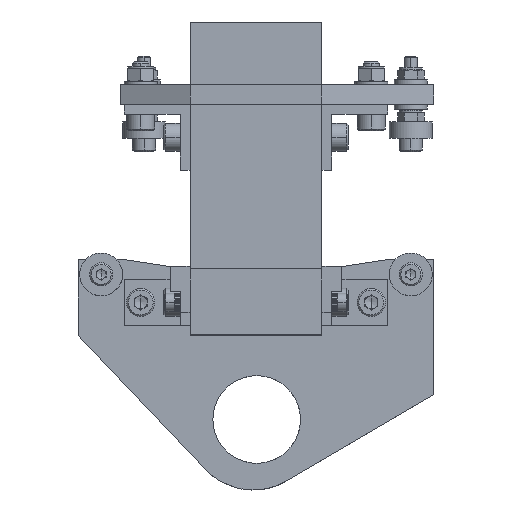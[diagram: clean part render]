
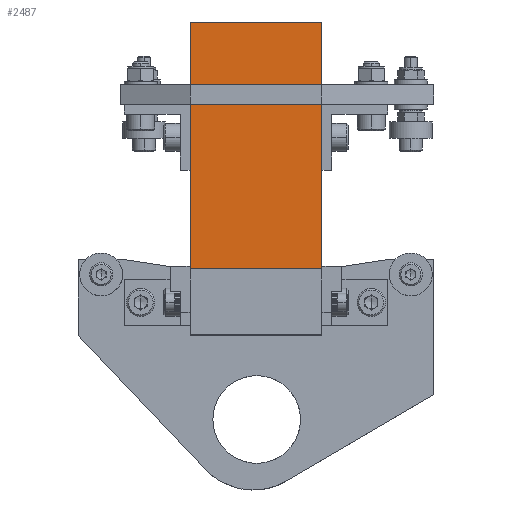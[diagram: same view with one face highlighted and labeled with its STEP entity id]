
A CAD part, top view. The second image highlights one B-rep face of the part: STEP entity #2487.
In plain terms, the highlighted planar face has unit normal (0, 0, 1).
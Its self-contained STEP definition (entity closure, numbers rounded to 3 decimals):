
#2487=ADVANCED_FACE('',(#3323),#27857,.T.);
#3323=FACE_OUTER_BOUND('',#4258,.T.);
#4258=EDGE_LOOP('',(#8030,#8031,#8032,#8033));
#8030=ORIENTED_EDGE('',*,*,#24456,.T.);
#8031=ORIENTED_EDGE('',*,*,#24457,.T.);
#8032=ORIENTED_EDGE('',*,*,#24458,.T.);
#8033=ORIENTED_EDGE('',*,*,#24454,.F.);
#11901=PCURVE('',#27856,#15775);
#11904=PCURVE('',#27857,#15778);
#11905=PCURVE('',#27857,#15779);
#11906=PCURVE('',#27857,#15780);
#11907=PCURVE('',#27857,#15781);
#11911=PCURVE('',#27858,#15785);
#11913=PCURVE('',#27859,#15787);
#11918=PCURVE('',#27860,#15792);
#15775=DEFINITIONAL_REPRESENTATION('',(#20198),#55946);
#15778=DEFINITIONAL_REPRESENTATION('',(#20203),#55946);
#15779=DEFINITIONAL_REPRESENTATION('',(#20205),#55946);
#15780=DEFINITIONAL_REPRESENTATION('',(#20207),#55946);
#15781=DEFINITIONAL_REPRESENTATION('',(#20208),#55946);
#15785=DEFINITIONAL_REPRESENTATION('',(#20214),#55946);
#15787=DEFINITIONAL_REPRESENTATION('',(#20216),#55946);
#15792=DEFINITIONAL_REPRESENTATION('',(#20221),#55946);
#20197=B_SPLINE_CURVE_WITH_KNOTS('',1,(#55232,#55233),.UNSPECIFIED.,.F.,
 .F.,(2,2),(0.,80.),.UNSPECIFIED.);
#20198=B_SPLINE_CURVE_WITH_KNOTS('',1,(#55234,#55235),.UNSPECIFIED.,.F.,
 .F.,(2,2),(0.,80.),.UNSPECIFIED.);
#20202=B_SPLINE_CURVE_WITH_KNOTS('',1,(#55242,#55243),.UNSPECIFIED.,.F.,
 .F.,(2,2),(60.,100.),.UNSPECIFIED.);
#20203=B_SPLINE_CURVE_WITH_KNOTS('',1,(#55244,#55245),.UNSPECIFIED.,.F.,
 .F.,(2,2),(60.,100.),.UNSPECIFIED.);
#20204=B_SPLINE_CURVE_WITH_KNOTS('',1,(#55246,#55247),.UNSPECIFIED.,.F.,
 .F.,(2,2),(0.,80.),.UNSPECIFIED.);
#20205=B_SPLINE_CURVE_WITH_KNOTS('',1,(#55248,#55249),.UNSPECIFIED.,.F.,
 .F.,(2,2),(0.,80.),.UNSPECIFIED.);
#20206=B_SPLINE_CURVE_WITH_KNOTS('',1,(#55250,#55251),.UNSPECIFIED.,.F.,
 .F.,(2,2),(-100.,-60.),.UNSPECIFIED.);
#20207=B_SPLINE_CURVE_WITH_KNOTS('',1,(#55252,#55253),.UNSPECIFIED.,.F.,
 .F.,(2,2),(-100.,-60.),.UNSPECIFIED.);
#20208=B_SPLINE_CURVE_WITH_KNOTS('',1,(#55254,#55255),.UNSPECIFIED.,.F.,
 .F.,(2,2),(0.,80.),.UNSPECIFIED.);
#20214=B_SPLINE_CURVE_WITH_KNOTS('',1,(#55266,#55267),.UNSPECIFIED.,.F.,
 .F.,(2,2),(0.,80.),.UNSPECIFIED.);
#20216=B_SPLINE_CURVE_WITH_KNOTS('',1,(#55270,#55271),.UNSPECIFIED.,.F.,
 .F.,(2,2),(60.,100.),.UNSPECIFIED.);
#20221=B_SPLINE_CURVE_WITH_KNOTS('',1,(#55280,#55281),.UNSPECIFIED.,.F.,
 .F.,(2,2),(-100.,-60.),.UNSPECIFIED.);
#22375=SURFACE_CURVE('',#20197,(#11901,#11907),.PCURVE_S1.);
#22377=SURFACE_CURVE('',#20202,(#11904,#11913),.PCURVE_S1.);
#22378=SURFACE_CURVE('',#20204,(#11905,#11911),.PCURVE_S1.);
#22379=SURFACE_CURVE('',#20206,(#11906,#11918),.PCURVE_S1.);
#24454=EDGE_CURVE('',#27397,#27398,#22375,.T.);
#24456=EDGE_CURVE('',#27397,#27399,#22377,.T.);
#24457=EDGE_CURVE('',#27399,#27400,#22378,.T.);
#24458=EDGE_CURVE('',#27400,#27398,#22379,.T.);
#27397=VERTEX_POINT('',#55208);
#27398=VERTEX_POINT('',#55209);
#27399=VERTEX_POINT('',#55210);
#27400=VERTEX_POINT('',#55211);
#27856=PLANE('',#29157);
#27857=PLANE('',#29158);
#27858=PLANE('',#29159);
#27859=PLANE('',#29160);
#27860=PLANE('',#29161);
#29157=AXIS2_PLACEMENT_3D('',#55199,#29771,$);
#29158=AXIS2_PLACEMENT_3D('',#55200,#29772,$);
#29159=AXIS2_PLACEMENT_3D('',#55201,#29773,$);
#29160=AXIS2_PLACEMENT_3D('',#55202,#29774,$);
#29161=AXIS2_PLACEMENT_3D('',#55203,#29775,$);
#29771=DIRECTION('',(1.,0.,0.));
#29772=DIRECTION('',(0.,0.,1.));
#29773=DIRECTION('',(-1.,0.,0.));
#29774=DIRECTION('',(0.,1.,0.));
#29775=DIRECTION('',(0.,-1.,0.));
#55199=CARTESIAN_POINT('',(-450.,105.,40.));
#55200=CARTESIAN_POINT('',(-450.,105.,60.));
#55201=CARTESIAN_POINT('',(-490.,105.,60.));
#55202=CARTESIAN_POINT('',(-490.,105.,40.));
#55203=CARTESIAN_POINT('',(-490.,30.,40.));
#55208=CARTESIAN_POINT('',(-450.,105.,60.));
#55209=CARTESIAN_POINT('',(-450.,30.,60.));
#55210=CARTESIAN_POINT('',(-490.,105.,60.));
#55211=CARTESIAN_POINT('',(-490.,30.,60.));
#55232=CARTESIAN_POINT('',(-450.,105.,60.));
#55233=CARTESIAN_POINT('',(-450.,30.,60.));
#55234=CARTESIAN_POINT('',(60.,0.));
#55235=CARTESIAN_POINT('',(60.,80.));
#55242=CARTESIAN_POINT('',(-450.,105.,60.));
#55243=CARTESIAN_POINT('',(-490.,105.,60.));
#55244=CARTESIAN_POINT('',(60.,0.));
#55245=CARTESIAN_POINT('',(100.,0.));
#55246=CARTESIAN_POINT('',(-490.,105.,60.));
#55247=CARTESIAN_POINT('',(-490.,30.,60.));
#55248=CARTESIAN_POINT('',(100.,0.));
#55249=CARTESIAN_POINT('',(100.,80.));
#55250=CARTESIAN_POINT('',(-490.,30.,60.));
#55251=CARTESIAN_POINT('',(-450.,30.,60.));
#55252=CARTESIAN_POINT('',(100.,80.));
#55253=CARTESIAN_POINT('',(60.,80.));
#55254=CARTESIAN_POINT('',(60.,0.));
#55255=CARTESIAN_POINT('',(60.,80.));
#55266=CARTESIAN_POINT('',(100.,0.));
#55267=CARTESIAN_POINT('',(100.,80.));
#55270=CARTESIAN_POINT('',(20.,40.));
#55271=CARTESIAN_POINT('',(20.,0.));
#55280=CARTESIAN_POINT('',(0.,20.));
#55281=CARTESIAN_POINT('',(40.,20.));
#55946=(
GEOMETRIC_REPRESENTATION_CONTEXT(2)
PARAMETRIC_REPRESENTATION_CONTEXT()
REPRESENTATION_CONTEXT('pspace','')
);
